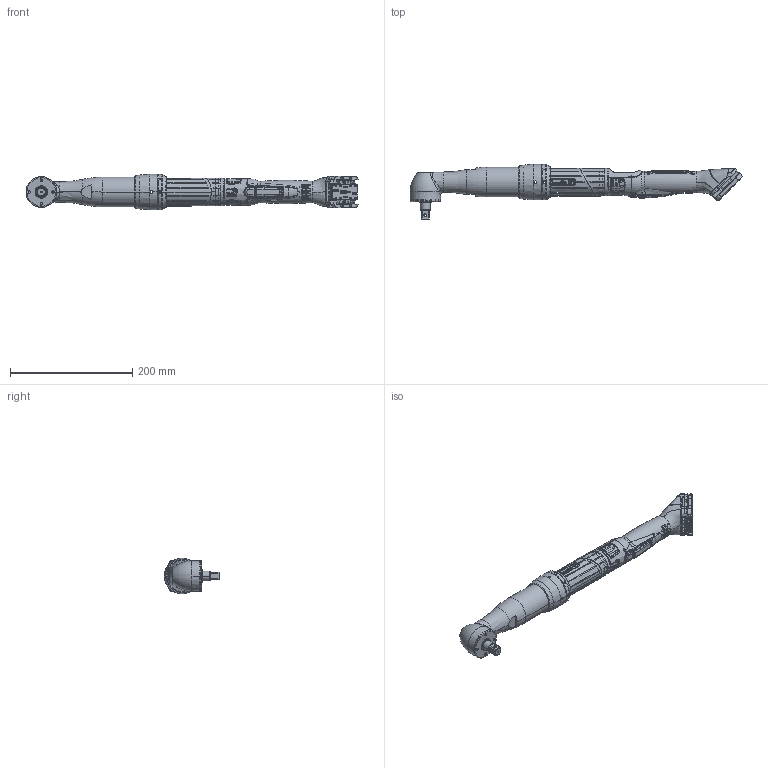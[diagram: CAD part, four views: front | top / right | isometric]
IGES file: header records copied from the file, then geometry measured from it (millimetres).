
Start section:  PTC IGES file: 6151663240_dim.igs
Global section: file name: 6151663240_dim.igs; native system: Creo Parametric by PTC Inc.; preprocessor: 2025243; author: SYSTEM; organization: Unknown; date: 20260225.171805; units: millimetre
Bounding box: 543.53 x 90.4 x 58 mm (x, y, z)
Surface area: 97242.1 mm2 (no closed solid volume)
Topology: 0 solids, 0 shells, 2820 faces, 14753 edges, 14735 vertices
Faces by surface type: extrusion 1185, bspline 1176, revolution 459
